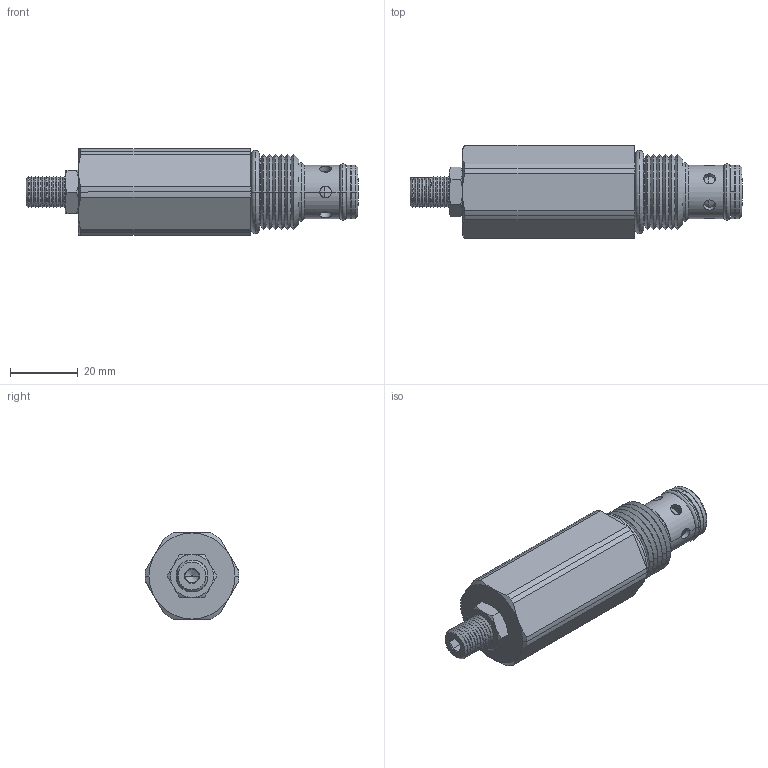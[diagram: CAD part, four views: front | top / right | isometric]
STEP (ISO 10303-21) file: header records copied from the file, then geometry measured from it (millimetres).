
FILE_DESCRIPTION((''),'2;1');
FILE_NAME('U:\Solid model CD\Solid model full\Mechanical\STEP\DERWD00-3D Full.stp','2008-07-29T09:01:12',('Dan'),(''),'Autodesk Inventor 9','Autodesk Inventor 9','');
FILE_SCHEMA(('AUTOMOTIVE_DESIGN { 1 0 10303 214 1 1 1 1 }'));
Length unit declared in the file: inch
Products named in the file (5): DERWD00-3D Full; DERWD00-3D Full1; DERWD00-3D Full2; DERWD00-3D Full3; DERWD00-3D Full4
Assembly tree (4 placements, depth 2):
  DERWD00-3D Full
    DERWD00-3D Full1
    DERWD00-3D Full2
    DERWD00-3D Full3
    DERWD00-3D Full4
Bounding box: 97.99 x 27.69 x 25.4 mm (x, y, z)
Volume: 37237.5 mm3; surface area: 10031 mm2
Topology: 4 solids, 4 shells, 212 faces, 485 edges, 283 vertices
Faces by surface type: cone 112, cylinder 50, plane 42, torus 8
Entity records: 6353 total; most frequent: CARTESIAN_POINT 1545, DIRECTION 1035, ORIENTED_EDGE 970, EDGE_CURVE 485, AXIS2_PLACEMENT_3D 433, VERTEX_POINT 283, EDGE_LOOP 234, CIRCLE 212
